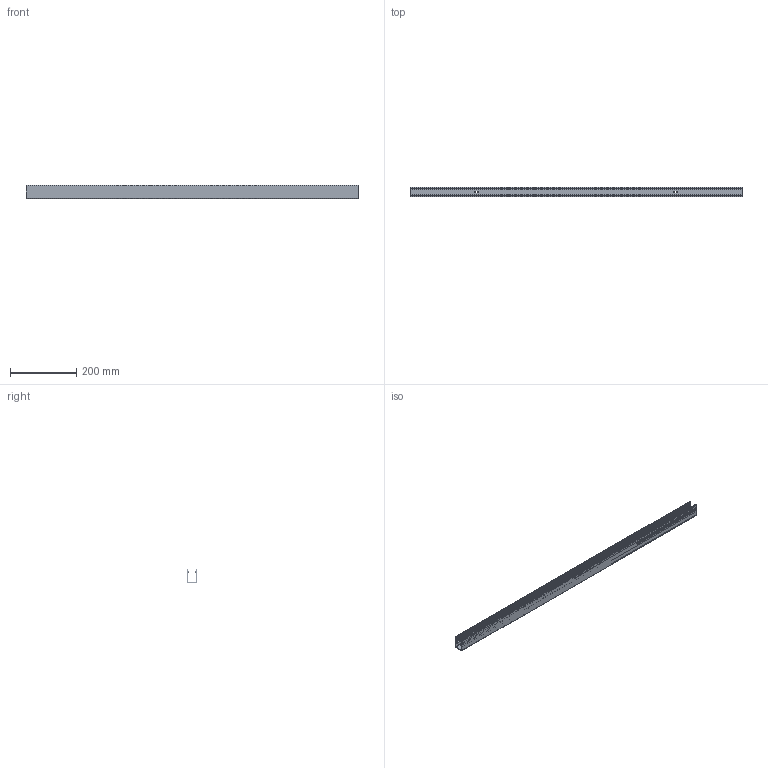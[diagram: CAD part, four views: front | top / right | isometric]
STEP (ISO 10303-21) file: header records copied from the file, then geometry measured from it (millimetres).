
FILE_DESCRIPTION(/* description */ (''),/* implementation_level */ '2;1');
FILE_NAME(/* name */ 'NF_2222_STRAIGHT_PROFILE_CABLE_DUCT_L1000_R01.step',/* time_stamp */ '2026-07-17T18:49:22+02:00',/* author */ (''),/* organization */ (''),/* preprocessor_version */ 'ST-DEVELOPER v20.1',/* originating_system */ 'Autodesk Translation Framework v15.8.0.0',/* authorisation */ '');
FILE_SCHEMA (('AUTOMOTIVE_DESIGN { 1 0 10303 214 3 1 1 }'));
Length unit declared in the file: millimetre
Products named in the file (1): 2026-07-17-18-38-34-004
Bounding box: 1000 x 27.69 x 39.38 mm (x, y, z)
Volume: 212161.7 mm3; surface area: 310290.1 mm2
Topology: 3 solids, 3 shells, 98 faces, 276 edges, 184 vertices
Faces by surface type: plane 66, bspline 20, cylinder 12
Entity records: 3715 total; most frequent: CARTESIAN_POINT 1251, ORIENTED_EDGE 552, DIRECTION 418, EDGE_CURVE 276, LINE 212, VECTOR 212, VERTEX_POINT 184, AXIS2_PLACEMENT_3D 103
